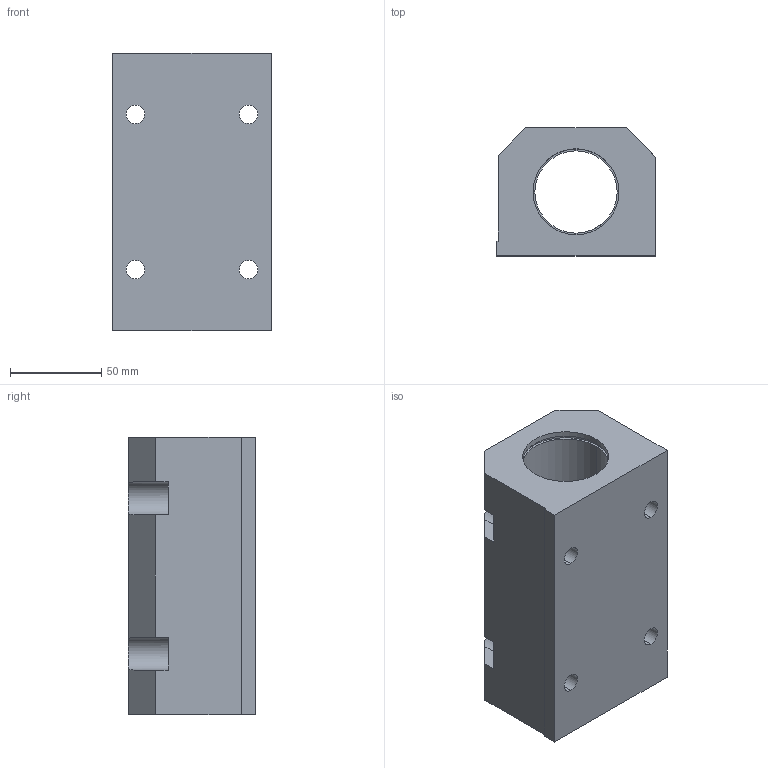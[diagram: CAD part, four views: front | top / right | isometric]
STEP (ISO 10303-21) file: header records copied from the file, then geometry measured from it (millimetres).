
FILE_DESCRIPTION (( 'STEP AP214' ), '1' );
FILE_NAME ('KTG85-I-30.step', '2020-03-04T13:31:05', ( '' ), ( '' ), 'SwSTEP 2.0', 'SolidWorks 2019', '' );
FILE_SCHEMA (( 'AUTOMOTIVE_DESIGN' ));
Length unit declared in the file: millimetre
Products named in the file (1): KTG85-I-30
Bounding box: 87 x 70 x 152 mm (x, y, z)
Volume: 578167.5 mm3; surface area: 85259.8 mm2
Topology: 1 solids, 1 shells, 64 faces, 164 edges, 108 vertices
Faces by surface type: plane 32, cylinder 30, cone 2
Entity records: 2184 total; most frequent: CARTESIAN_POINT 427, DIRECTION 342, ORIENTED_EDGE 328, EDGE_CURVE 164, AXIS2_PLACEMENT_3D 123, VERTEX_POINT 108, LINE 96, VECTOR 96
